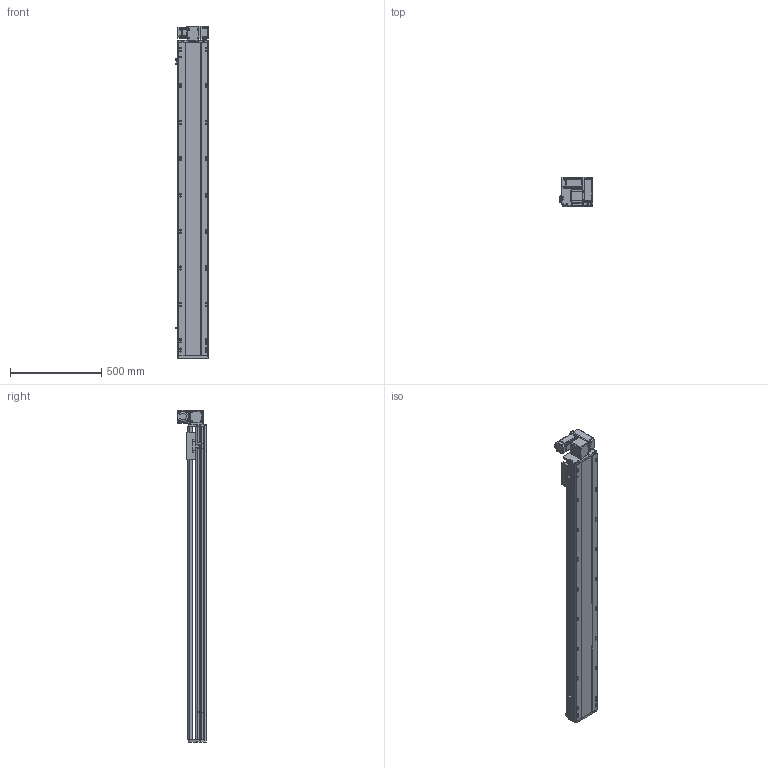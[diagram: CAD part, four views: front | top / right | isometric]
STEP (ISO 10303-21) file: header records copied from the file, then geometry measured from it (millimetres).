
FILE_DESCRIPTION (( 'STEP AP214' ), '1' );
FILE_NAME ('RTB17S-XX-1450-RW-M40-C4.STEP', '2025-12-11T09:03:38', ( '' ), ( '' ), 'SwSTEP 2.0', 'SolidWorks 2018', '' );
FILE_SCHEMA (( 'AUTOMOTIVE_DESIGN' ));
Length unit declared in the file: millimetre
Products named in the file (14): RTB17S-L-001耜醱啣^RTB17S-XX-XX-RW-M40-C4; RTB17-R-011菁釱^RTB17S-XX-XX-RW-M40-C4; RTB14-L-017P^RTB17S-RW-々湍釱蚾饜-400W_RTB17S-XX-XX-RW-M40-C4; RMP17S-L-014-T20--々湍釱^RTB17S-RW-々湍釱蚾饜-400W_RTB17S-XX-XX-RW-M40-C4; RTB14-L-005P--轴承塑胶压盖^RTB17S-RW-皮带座装配-400W_RTB17S-XX-XX-RW-M40-C4; RTB14-L-018P^RTB17S-RW-々湍釱蚾饜-400W_RTB17S-XX-XX-RW-M40-C4; RTB17S-L-004佪裝蹟譫蟀諉釱^RTB17S-XX-XX-RW-M40-C4; RTB17S-RW-々湍釱蚾饜-400W^RTB17S-XX-XX-RW-M40-C4; RTH13-BL-012覜茼え俋离^RTB17S-XX-XX-RW-M40-C4; 400W侜督萇儂^RTB17S-XX-XX-RW-M40-C4; RTB17S-XX-1450-RW-M40-C4; RTB17S-L-007奻裔^RTB17S-XX-XX-RW-M40-C4; OMRON EE-SX672 传感器^RTB17S-XX-XX-RW-M40-C4; RTB14-L-008-M20--萇儂啣^RTB17S-RW-々湍釱蚾饜-400W_RTB17S-XX-XX-RW-M40-C4
Assembly tree (16 placements, depth 3):
  RTB17S-XX-1450-RW-M40-C4
    RTB17-R-011菁釱^RTB17S-XX-XX-RW-M40-C4
    RTB17S-L-007奻裔^RTB17S-XX-XX-RW-M40-C4
    OMRON EE-SX672 传感器^RTB17S-XX-XX-RW-M40-C4  x3
    RTB17S-L-001耜醱啣^RTB17S-XX-XX-RW-M40-C4
    400W侜督萇儂^RTB17S-XX-XX-RW-M40-C4
    RTB17S-L-004佪裝蹟譫蟀諉釱^RTB17S-XX-XX-RW-M40-C4
    RTH13-BL-012覜茼え俋离^RTB17S-XX-XX-RW-M40-C4
    RTB17S-RW-々湍釱蚾饜-400W^RTB17S-XX-XX-RW-M40-C4
      RMP17S-L-014-T20--々湍釱^RTB17S-RW-々湍釱蚾饜-400W_RTB17S-XX-XX-RW-M40-C4
      RTB14-L-005P--轴承塑胶压盖^RTB17S-RW-皮带座装配-400W_RTB17S-XX-XX-RW-M40-C4
      RTB14-L-008-M20--萇儂啣^RTB17S-RW-々湍釱蚾饜-400W_RTB17S-XX-XX-RW-M40-C4
      RTB14-L-017P^RTB17S-RW-々湍釱蚾饜-400W_RTB17S-XX-XX-RW-M40-C4  x2
      RTB14-L-018P^RTB17S-RW-々湍釱蚾饜-400W_RTB17S-XX-XX-RW-M40-C4
Bounding box: 183.5 x 160.5 x 1822.5 mm (x, y, z)
Volume: 16038831.2 mm3; surface area: 1900044.6 mm2
Topology: 15 solids, 15 shells, 2253 faces, 6249 edges, 4077 vertices
Faces by surface type: plane 1074, cylinder 731, bspline 301, cone 139, torus 8
Entity records: 64937 total; most frequent: CARTESIAN_POINT 18254, ORIENTED_EDGE 9342, DIRECTION 8666, EDGE_CURVE 4671, VERTEX_POINT 3065, AXIS2_PLACEMENT_3D 2995, VECTOR 2676, LINE 2676
